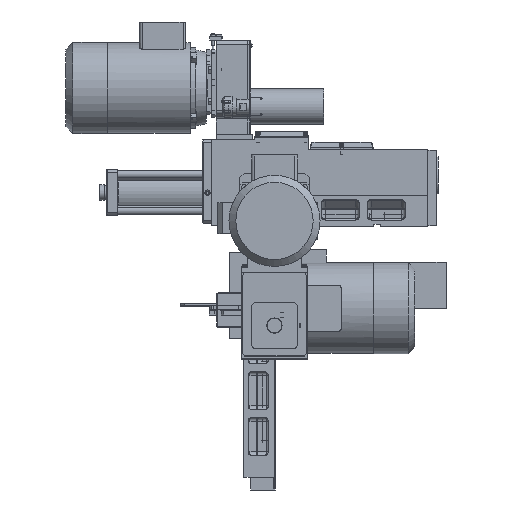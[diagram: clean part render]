
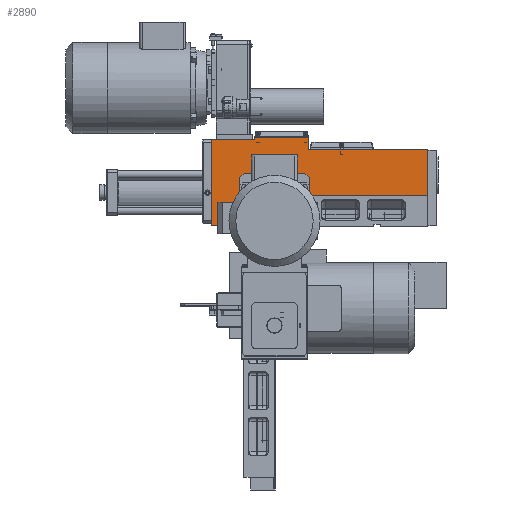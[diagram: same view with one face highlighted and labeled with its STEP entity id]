
A CAD part, front view. The second image highlights one B-rep face of the part: STEP entity #2890.
In plain terms, the highlighted planar face has unit normal (0, -1, 0).
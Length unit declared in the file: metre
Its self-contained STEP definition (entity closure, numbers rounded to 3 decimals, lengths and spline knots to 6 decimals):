
#2890 = ADVANCED_FACE( '', ( #4942 ), #4943, .T. );
#4942 = FACE_OUTER_BOUND( '', #9109, .T. );
#4943 = PLANE( '', #9110 );
#9109 = EDGE_LOOP( '', ( #15041, #15042, #15043, #15044, #15045, #15046, #15047, #15048, #15049, #15050 ) );
#9110 = AXIS2_PLACEMENT_3D( '', #15051, #15052, #15053 );
#15041 = ORIENTED_EDGE( '', *, *, #18517, .T. );
#15042 = ORIENTED_EDGE( '', *, *, #18514, .T. );
#15043 = ORIENTED_EDGE( '', *, *, #18516, .F. );
#15044 = ORIENTED_EDGE( '', *, *, #18518, .T. );
#15045 = ORIENTED_EDGE( '', *, *, #18519, .T. );
#15046 = ORIENTED_EDGE( '', *, *, #18520, .T. );
#15047 = ORIENTED_EDGE( '', *, *, #18521, .T. );
#15048 = ORIENTED_EDGE( '', *, *, #18508, .T. );
#15049 = ORIENTED_EDGE( '', *, *, #18511, .T. );
#15050 = ORIENTED_EDGE( '', *, *, #18522, .T. );
#15051 = CARTESIAN_POINT( '', ( 0.337, -0.003889, 0. ) );
#15052 = DIRECTION( '', ( 0., -1., 0. ) );
#15053 = DIRECTION( '', ( 1., 0., 0. ) );
#18508 = EDGE_CURVE( '', #21630, #21628, #21631, .T. );
#18511 = EDGE_CURVE( '', #21628, #21633, #21635, .T. );
#18514 = EDGE_CURVE( '', #21636, #21638, #21640, .T. );
#18516 = EDGE_CURVE( '', #21641, #21638, #21643, .T. );
#18517 = EDGE_CURVE( '', #21644, #21636, #21645, .T. );
#18518 = EDGE_CURVE( '', #21641, #21646, #21647, .T. );
#18519 = EDGE_CURVE( '', #21646, #21648, #21649, .T. );
#18520 = EDGE_CURVE( '', #21648, #21650, #21651, .T. );
#18521 = EDGE_CURVE( '', #21650, #21630, #21652, .T. );
#18522 = EDGE_CURVE( '', #21633, #21644, #21653, .T. );
#21628 = VERTEX_POINT( '', #28079 );
#21630 = VERTEX_POINT( '', #28082 );
#21631 = LINE( '', #28083, #28084 );
#21633 = VERTEX_POINT( '', #28087 );
#21635 = LINE( '', #28090, #28091 );
#21636 = VERTEX_POINT( '', #28092 );
#21638 = VERTEX_POINT( '', #28095 );
#21640 = LINE( '', #28098, #28099 );
#21641 = VERTEX_POINT( '', #28100 );
#21643 = LINE( '', #28103, #28104 );
#21644 = VERTEX_POINT( '', #28105 );
#21645 = LINE( '', #28106, #28107 );
#21646 = VERTEX_POINT( '', #28108 );
#21647 = LINE( '', #28109, #28110 );
#21648 = VERTEX_POINT( '', #28111 );
#21649 = LINE( '', #28112, #28113 );
#21650 = VERTEX_POINT( '', #28114 );
#21651 = LINE( '', #28115, #28116 );
#21652 = LINE( '', #28117, #28118 );
#21653 = LINE( '', #28119, #28120 );
#28079 = CARTESIAN_POINT( '', ( 0.102, -0.003889, 0.115 ) );
#28082 = CARTESIAN_POINT( '', ( 0.102, -0.003889, 0.09 ) );
#28083 = CARTESIAN_POINT( '', ( 0.102, -0.003889, 0.09 ) );
#28084 = VECTOR( '', #31659, 1. );
#28087 = CARTESIAN_POINT( '', ( -0.003, -0.003889, 0.115 ) );
#28090 = CARTESIAN_POINT( '', ( -0.005, -0.003889, 0.115 ) );
#28091 = VECTOR( '', #31662, 1. );
#28092 = CARTESIAN_POINT( '', ( -0.088, -0.003889, 0.11 ) );
#28095 = CARTESIAN_POINT( '', ( -0.088, -0.003889, -0.059 ) );
#28098 = CARTESIAN_POINT( '', ( -0.088, -0.003889, -0.059 ) );
#28099 = VECTOR( '', #31665, 1. );
#28100 = CARTESIAN_POINT( '', ( -0.005, -0.003889, -0.059 ) );
#28103 = CARTESIAN_POINT( '', ( -0.005, -0.003889, -0.059 ) );
#28104 = VECTOR( '', #31667, 1. );
#28105 = CARTESIAN_POINT( '', ( -0.003, -0.003889, 0.11 ) );
#28106 = CARTESIAN_POINT( '', ( 0.14575, -0.003889, 0.11 ) );
#28107 = VECTOR( '', #31668, 1. );
#28108 = CARTESIAN_POINT( '', ( -0.005, -0.003889, 0. ) );
#28109 = CARTESIAN_POINT( '', ( -0.005, -0.003889, -0.059 ) );
#28110 = VECTOR( '', #31669, 1. );
#28111 = CARTESIAN_POINT( '', ( 0.337, -0.003889, 0. ) );
#28112 = CARTESIAN_POINT( '', ( -0.005, -0.003889, 0. ) );
#28113 = VECTOR( '', #31670, 1. );
#28114 = CARTESIAN_POINT( '', ( 0.337, -0.003889, 0.09 ) );
#28115 = CARTESIAN_POINT( '', ( 0.337, -0.003889, 0. ) );
#28116 = VECTOR( '', #31671, 1. );
#28117 = CARTESIAN_POINT( '', ( -0.005, -0.003889, 0.09 ) );
#28118 = VECTOR( '', #31672, 1. );
#28119 = CARTESIAN_POINT( '', ( -0.003, -0.003889, 0.058735 ) );
#28120 = VECTOR( '', #31673, 1. );
#31659 = DIRECTION( '', ( 0., 0., 1. ) );
#31662 = DIRECTION( '', ( -1., 0., 0. ) );
#31665 = DIRECTION( '', ( 0., 0., -1. ) );
#31667 = DIRECTION( '', ( -1., 0., 0. ) );
#31668 = DIRECTION( '', ( -1., 0., 0. ) );
#31669 = DIRECTION( '', ( 0., 0., 1. ) );
#31670 = DIRECTION( '', ( 1., 0., 0. ) );
#31671 = DIRECTION( '', ( 0., 0., 1. ) );
#31672 = DIRECTION( '', ( -1., 0., 0. ) );
#31673 = DIRECTION( '', ( 0., 0., -1. ) );
